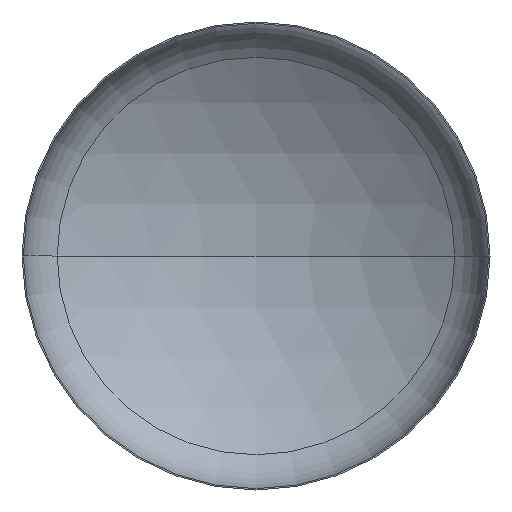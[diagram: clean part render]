
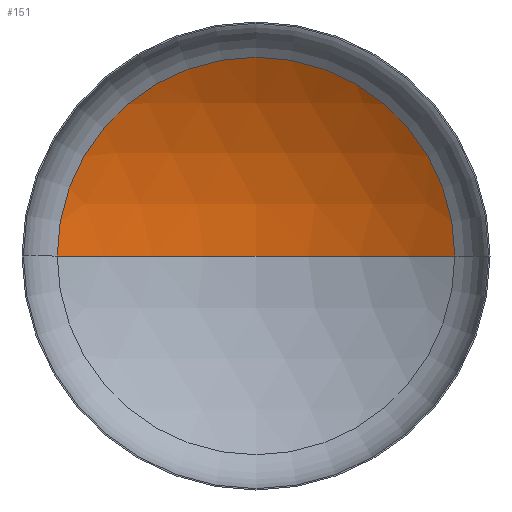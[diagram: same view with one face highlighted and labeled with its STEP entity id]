
A CAD part, front view. The second image highlights one B-rep face of the part: STEP entity #151.
In plain terms, the highlighted spherical face has radius 5600 mm.
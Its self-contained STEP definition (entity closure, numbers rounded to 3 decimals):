
#3 = FACE_OUTER_BOUND ( 'NONE', #171, .T. ) ;
#16 = ORIENTED_EDGE ( 'NONE', *, *, #346, .T. ) ;
#24 = SPHERICAL_SURFACE ( 'NONE', #342, 5600. ) ;
#26 = ORIENTED_EDGE ( 'NONE', *, *, #377, .T. ) ;
#52 = DIRECTION ( 'NONE',  ( 0., 0., 1. ) ) ;
#77 = VERTEX_POINT ( 'NONE', #339 ) ;
#78 = CARTESIAN_POINT ( 'NONE',  ( -2973.451, 975.18, 0. ) ) ;
#106 = ORIENTED_EDGE ( 'NONE', *, *, #391, .F. ) ;
#131 = DIRECTION ( 'NONE',  ( 0., 0., -1. ) ) ;
#134 = VERTEX_POINT ( 'NONE', #269 ) ;
#137 = CIRCLE ( 'NONE', #303, 5600. ) ;
#145 = DIRECTION ( 'NONE',  ( -1., 0., 0. ) ) ;
#148 = CARTESIAN_POINT ( 'NONE',  ( 0., -3770.196, 0. ) ) ;
#151 = ADVANCED_FACE ( 'NONE', ( #3 ), #24, .F. ) ;
#171 = EDGE_LOOP ( 'NONE', ( #106, #26, #16 ) ) ;
#174 = CARTESIAN_POINT ( 'NONE',  ( 0., 975.18, 0. ) ) ;
#221 = DIRECTION ( 'NONE',  ( 0., 0., -1. ) ) ;
#224 = DIRECTION ( 'NONE',  ( -1., 0., 0. ) ) ;
#245 = CIRCLE ( 'NONE', #336, 5600. ) ;
#247 = AXIS2_PLACEMENT_3D ( 'NONE', #174, #367, #306 ) ;
#269 = CARTESIAN_POINT ( 'NONE',  ( 2973.451, 975.18, 0. ) ) ;
#279 = CARTESIAN_POINT ( 'NONE',  ( 0., -3770.196, 0. ) ) ;
#303 = AXIS2_PLACEMENT_3D ( 'NONE', #374, #221, #224 ) ;
#306 = DIRECTION ( 'NONE',  ( 1., 0., 0. ) ) ;
#307 = DIRECTION ( 'NONE',  ( 1., 0., 0. ) ) ;
#325 = CIRCLE ( 'NONE', #247, 2973.451 ) ;
#330 = VERTEX_POINT ( 'NONE', #78 ) ;
#336 = AXIS2_PLACEMENT_3D ( 'NONE', #279, #52, #307 ) ;
#339 = CARTESIAN_POINT ( 'NONE',  ( 0., 1829.804, 0. ) ) ;
#342 = AXIS2_PLACEMENT_3D ( 'NONE', #148, #131, #145 ) ;
#346 = EDGE_CURVE ( 'NONE', #134, #330, #325, .T. ) ;
#367 = DIRECTION ( 'NONE',  ( 0., -1., 0. ) ) ;
#374 = CARTESIAN_POINT ( 'NONE',  ( 0., -3770.196, 0. ) ) ;
#377 = EDGE_CURVE ( 'NONE', #77, #134, #137, .T. ) ;
#391 = EDGE_CURVE ( 'NONE', #77, #330, #245, .T. ) ;
